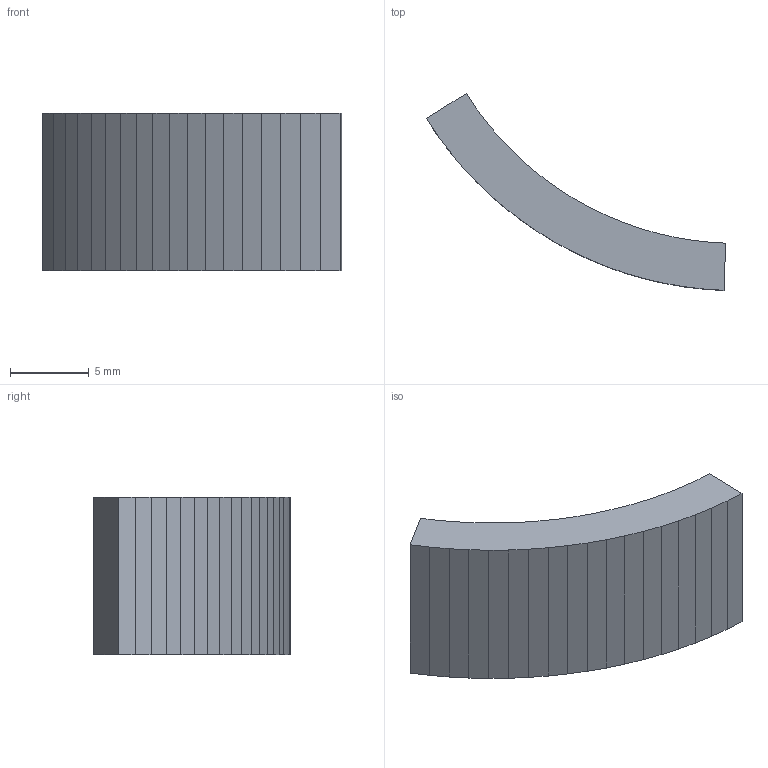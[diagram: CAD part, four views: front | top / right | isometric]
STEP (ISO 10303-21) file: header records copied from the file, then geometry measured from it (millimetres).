
FILE_DESCRIPTION(('Open CASCADE Model'),'2;1');
FILE_NAME('Open CASCADE Shape Model','2026-10-04T01:02:29',('Author'),( 'Open CASCADE'),'Open CASCADE STEP processor 8.0','Open CASCADE 8.0' ,'Unknown');
FILE_SCHEMA(('AUTOMOTIVE_DESIGN { 1 0 10303 214 1 1 1 1 }'));
Length unit declared in the file: millimetre
Products named in the file (1): Open CASCADE STEP translator 8.0 157
Bounding box: 19.05 x 12.53 x 10 mm (x, y, z)
Volume: 638.9 mm3; surface area: 613.9 mm2
Topology: 1 solids, 1 shells, 40 faces, 114 edges, 76 vertices
Faces by surface type: plane 40
Entity records: 2770 total; most frequent: CARTESIAN_POINT 459, DIRECTION 424, LINE 342, VECTOR 342, ORIENTED_EDGE 228, PCURVE 228, DEFINITIONAL_REPRESENTATION 228, EDGE_CURVE 114
